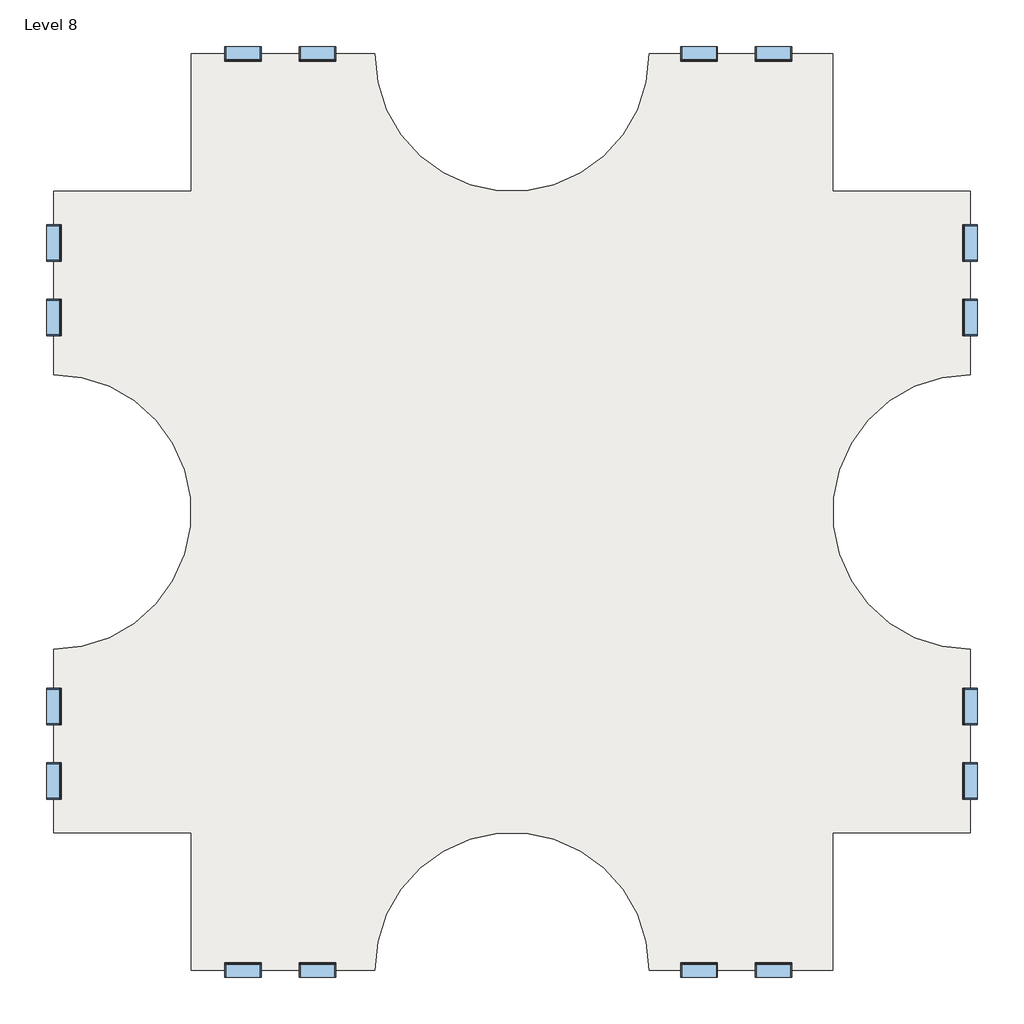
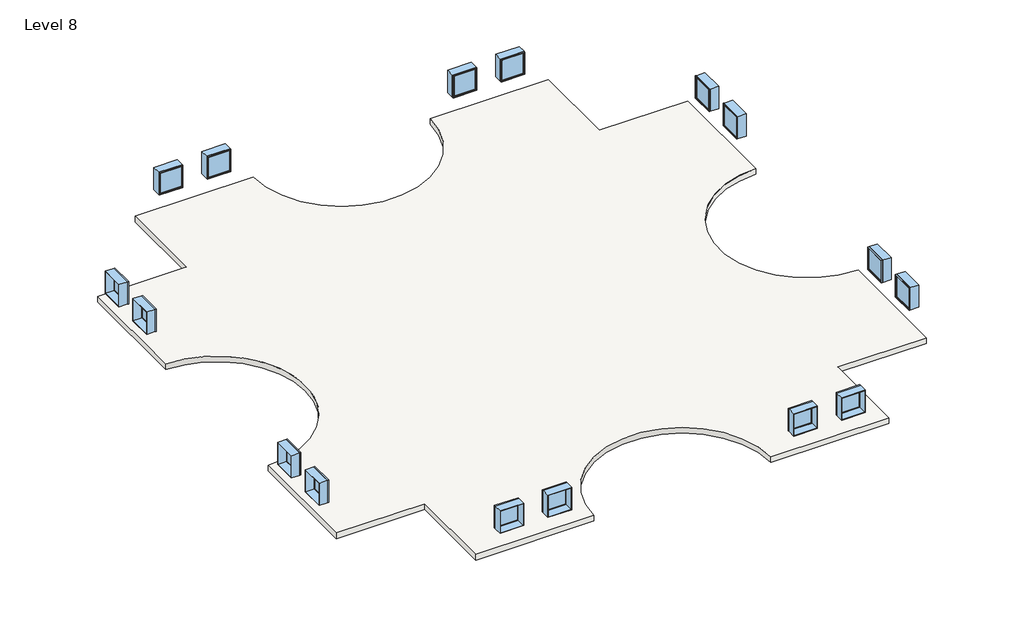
# One storey: 16 windows, 2 slabs.
"""IFC4 building model written with IfcOpenShell, lengths in millimetres."""

from ifc_helpers import new_model, si_unit, point, frame, frame_2d, origin, place, context, project, spatial, polyline, circle_curve, trimmed, segment, composite_curve, outline, extrude, transform, mapped, element, save
from components import window_d0035ecf, window_d434eb62

model = new_model("IFC4")

# Units and contexts
model_context = context("Model", 3, world=origin())
ifc_project = project(units=[si_unit("LENGTHUNIT", "METRE", prefix="MILLI")], contexts=[model_context])

# Site, building, storey
site = spatial("IfcSite", under=ifc_project)
building = spatial("IfcBuilding", under=site)
storey = spatial("IfcBuildingStorey", under=building, Name="Level 8", Elevation=21336.0)

# Slabs
placement = place(None, origin())
element("IfcSlab", 1, ObjectType="Generic - 12\"", at=placement, inside=storey, context=model_context, shape_type="SweptSolid", body=[
    extrude(outline(composite_curve([segment(polyline([(-7150.3629456, 4479.6634547), (-7150.3629456, 9051.6634547), (-1054.3629456, 9051.6634547)]), True, "CONTINUOUS"), segment(trimmed(circle_curve(frame_2d((3517.6370544, 9051.6634547)), 4572.0), [point((-1054.3629456, 9051.6634547))], [point((8089.6370544, 9051.6634547))], True, "CARTESIAN"), True, "CONTINUOUS"), segment(polyline([(8089.6370544, 9051.6634547), (14185.6370544, 9051.6634547), (14185.6370544, 4479.6634547), (18757.6370544, 4479.6634547), (18757.6370544, -1616.3365453)]), True, "CONTINUOUS"), segment(trimmed(circle_curve(frame_2d((18757.6370544, -6188.3365453)), 4572.0), [point((18757.6370544, -1616.3365453))], [point((18757.6370544, -10760.3365453))], True, "CARTESIAN"), True, "CONTINUOUS"), segment(polyline([(18757.6370544, -10760.3365453), (18757.6370544, -16856.3365453), (14185.6370544, -16856.3365453), (14185.6370544, -21428.3365453), (8089.6370544, -21428.3365453)]), True, "CONTINUOUS"), segment(trimmed(circle_curve(frame_2d((3517.6370544, -21428.3365453)), 4572.0), [point((8089.6370544, -21428.3365453))], [point((-1054.3629456, -21428.3365453))], True, "CARTESIAN"), True, "CONTINUOUS"), segment(polyline([(-1054.3629456, -21428.3365453), (-7150.3629456, -21428.3365453), (-7150.3629456, -16856.3365453), (-11722.3629456, -16856.3365453), (-11722.3629456, -10760.3365453)]), True, "CONTINUOUS"), segment(trimmed(circle_curve(frame_2d((-11722.3629456, -6188.3365453)), 4572.0), [point((-11722.3629456, -10760.3365453))], [point((-11722.3629456, -1616.3365453))], True, "CARTESIAN"), True, "CONTINUOUS"), segment(polyline([(-11722.3629456, -1616.3365453), (-11722.3629456, 4479.6634547), (-7150.3629456, 4479.6634547)]), True, "CONTINUOUS")], self_intersect=False)), frame((0.0, 0.0, 21031.2), z_axis=(0.0, 0.0, 1.0), x_axis=(1.0, 0.0, 0.0)), (0.0, 0.0, 1.0), 304.8),
])
element("IfcSlab", 2, ObjectType="Generic - 12\"", at=placement, inside=storey, context=model_context, shape_type="SweptSolid", body=[
    extrude(outline(composite_curve([segment(polyline([(-7150.3629456, 4479.6634547), (-7150.3629456, 9051.6634547), (-1054.3629456, 9051.6634547)]), True, "CONTINUOUS"), segment(trimmed(circle_curve(frame_2d((3517.6370544, 9051.6634547)), 4572.0), [point((-1054.3629456, 9051.6634547))], [point((8089.6370544, 9051.6634547))], True, "CARTESIAN"), True, "CONTINUOUS"), segment(polyline([(8089.6370544, 9051.6634547), (14185.6370544, 9051.6634547), (14185.6370544, 4479.6634547), (18757.6370544, 4479.6634547), (18757.6370544, -1616.3365453)]), True, "CONTINUOUS"), segment(trimmed(circle_curve(frame_2d((18757.6370544, -6188.3365453)), 4572.0), [point((18757.6370544, -1616.3365453))], [point((18757.6370544, -10760.3365453))], True, "CARTESIAN"), True, "CONTINUOUS"), segment(polyline([(18757.6370544, -10760.3365453), (18757.6370544, -16856.3365453), (14185.6370544, -16856.3365453), (14185.6370544, -21428.3365453), (8089.6370544, -21428.3365453)]), True, "CONTINUOUS"), segment(trimmed(circle_curve(frame_2d((3517.6370544, -21428.3365453)), 4572.0), [point((8089.6370544, -21428.3365453))], [point((-1054.3629456, -21428.3365453))], True, "CARTESIAN"), True, "CONTINUOUS"), segment(polyline([(-1054.3629456, -21428.3365453), (-7150.3629456, -21428.3365453), (-7150.3629456, -16856.3365453), (-11722.3629456, -16856.3365453), (-11722.3629456, -10760.3365453)]), True, "CONTINUOUS"), segment(trimmed(circle_curve(frame_2d((-11722.3629456, -6188.3365453)), 4572.0), [point((-11722.3629456, -10760.3365453))], [point((-11722.3629456, -1616.3365453))], True, "CARTESIAN"), True, "CONTINUOUS"), segment(polyline([(-11722.3629456, -1616.3365453), (-11722.3629456, 4479.6634547), (-7150.3629456, 4479.6634547)]), True, "CONTINUOUS")], self_intersect=False)), frame((0.0, 0.0, 21031.2), z_axis=(0.0, 0.0, 1.0), x_axis=(1.0, 0.0, 0.0)), (0.0, 0.0, 1.0), 304.8),
])

# Windows
window_shape = window_d0035ecf(model_context)
element("IfcWindow", 3, ObjectType="Fixed : 48\" x 48\"", at=placement, inside=storey, context=model_context, shape_type="MappedRepresentation", body=[
    mapped(window_shape, transform((-11719.1879456, 247.3884547, 21336.0), x_axis=(0.0, -1.0, 0.0), y_axis=(1.0, 0.0, 0.0), z_axis=(0.0, 0.0, 1.0))),
])
element("IfcWindow", 4, ObjectType="Fixed : 48\" x 48\"", at=placement, inside=storey, context=model_context, shape_type="MappedRepresentation", body=[
    mapped(window_shape, transform((-5469.1993281, 9048.4884547, 21336.0), x_axis=(-1.0, 0.0, 0.0), y_axis=(0.0, -1.0, 0.0), z_axis=(0.0, 0.0, 1.0))),
])
element("IfcWindow", 5, ObjectType="Fixed : 48\" x 48\"", at=placement, inside=storey, context=model_context, shape_type="MappedRepresentation", body=[
    mapped(window_shape, transform((-11719.1879456, -15175.1729277, 21336.0), x_axis=(0.0, -1.0, 0.0), y_axis=(1.0, 0.0, 0.0), z_axis=(0.0, 0.0, 1.0))),
])
element("IfcWindow", 6, ObjectType="Fixed : 48\" x 48\"", at=placement, inside=storey, context=model_context, shape_type="MappedRepresentation", body=[
    mapped(window_shape, transform((-2918.0879456, -21425.1615453, 21336.0), x_axis=(1.0, 0.0, 0.0), y_axis=(0.0, 1.0, 0.0), z_axis=(0.0, 0.0, 1.0))),
])
element("IfcWindow", 7, ObjectType="Fixed : 48\" x 48\"", at=placement, inside=storey, context=model_context, shape_type="MappedRepresentation", body=[
    mapped(window_shape, transform((18754.4620544, 2798.4998372, 21336.0), x_axis=(0.0, 1.0, 0.0), y_axis=(-1.0, 0.0, 0.0), z_axis=(0.0, 0.0, 1.0))),
])
element("IfcWindow", 8, ObjectType="Fixed : 48\" x 48\"", at=placement, inside=storey, context=model_context, shape_type="MappedRepresentation", body=[
    mapped(window_shape, transform((9705.7120544, 9048.4884547, 21336.0), x_axis=(-1.0, 0.0, 0.0), y_axis=(0.0, -1.0, 0.0), z_axis=(0.0, 0.0, 1.0))),
])
element("IfcWindow", 9, ObjectType="Fixed : 48\" x 48\"", at=placement, inside=storey, context=model_context, shape_type="MappedRepresentation", body=[
    mapped(window_shape, transform((18754.4620544, -12624.0615453, 21336.0), x_axis=(0.0, 1.0, 0.0), y_axis=(-1.0, 0.0, 0.0), z_axis=(0.0, 0.0, 1.0))),
])
element("IfcWindow", 10, ObjectType="Fixed : 48\" x 48\"", at=placement, inside=storey, context=model_context, shape_type="MappedRepresentation", body=[
    mapped(window_shape, transform((12256.8234368, -21425.1615453, 21336.0), x_axis=(1.0, 0.0, 0.0), y_axis=(0.0, 1.0, 0.0), z_axis=(0.0, 0.0, 1.0))),
])
window_2_shape = window_d434eb62(model_context)
element("IfcWindow", 11, ObjectType="Fixed : 48\" x 48\"", at=placement, inside=storey, context=model_context, shape_type="MappedRepresentation", body=[
    mapped(window_2_shape, transform((-11719.1879456, 2798.4998372, 21336.0), x_axis=(0.0, 1.0, 0.0), y_axis=(-1.0, 0.0, 0.0), z_axis=(0.0, 0.0, 1.0))),
])
element("IfcWindow", 12, ObjectType="Fixed : 48\" x 48\"", at=placement, inside=storey, context=model_context, shape_type="MappedRepresentation", body=[
    mapped(window_2_shape, transform((-2918.0879456, 9048.4884547, 21336.0), x_axis=(1.0, 0.0, 0.0), y_axis=(0.0, 1.0, 0.0), z_axis=(0.0, 0.0, 1.0))),
])
element("IfcWindow", 13, ObjectType="Fixed : 48\" x 48\"", at=placement, inside=storey, context=model_context, shape_type="MappedRepresentation", body=[
    mapped(window_2_shape, transform((-11719.1879456, -12624.0615453, 21336.0), x_axis=(0.0, 1.0, 0.0), y_axis=(-1.0, 0.0, 0.0), z_axis=(0.0, 0.0, 1.0))),
])
element("IfcWindow", 14, ObjectType="Fixed : 48\" x 48\"", at=placement, inside=storey, context=model_context, shape_type="MappedRepresentation", body=[
    mapped(window_2_shape, transform((-5469.1993281, -21425.1615453, 21336.0), x_axis=(-1.0, 0.0, 0.0), y_axis=(0.0, -1.0, 0.0), z_axis=(0.0, 0.0, 1.0))),
])
element("IfcWindow", 15, ObjectType="Fixed : 48\" x 48\"", at=placement, inside=storey, context=model_context, shape_type="MappedRepresentation", body=[
    mapped(window_2_shape, transform((18754.4620544, 247.3884547, 21336.0), x_axis=(0.0, -1.0, 0.0), y_axis=(1.0, 0.0, 0.0), z_axis=(0.0, 0.0, 1.0))),
])
element("IfcWindow", 16, ObjectType="Fixed : 48\" x 48\"", at=placement, inside=storey, context=model_context, shape_type="MappedRepresentation", body=[
    mapped(window_2_shape, transform((12256.8234368, 9048.4884547, 21336.0), x_axis=(1.0, 0.0, 0.0), y_axis=(0.0, 1.0, 0.0), z_axis=(0.0, 0.0, 1.0))),
])
element("IfcWindow", 17, ObjectType="Fixed : 48\" x 48\"", at=placement, inside=storey, context=model_context, shape_type="MappedRepresentation", body=[
    mapped(window_2_shape, transform((18754.4620544, -15175.1729277, 21336.0), x_axis=(0.0, -1.0, 0.0), y_axis=(1.0, 0.0, 0.0), z_axis=(0.0, 0.0, 1.0))),
])
element("IfcWindow", 18, ObjectType="Fixed : 48\" x 48\"", at=placement, inside=storey, context=model_context, shape_type="MappedRepresentation", body=[
    mapped(window_2_shape, transform((9705.7120544, -21425.1615453, 21336.0), x_axis=(-1.0, 0.0, 0.0), y_axis=(0.0, -1.0, 0.0), z_axis=(0.0, 0.0, 1.0))),
])

save(model, "model.ifc")
